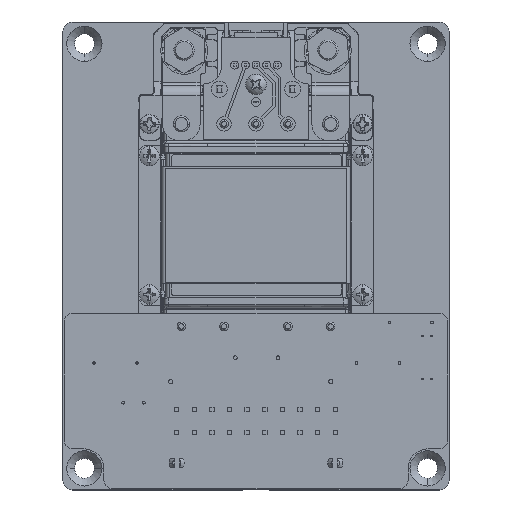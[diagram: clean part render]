
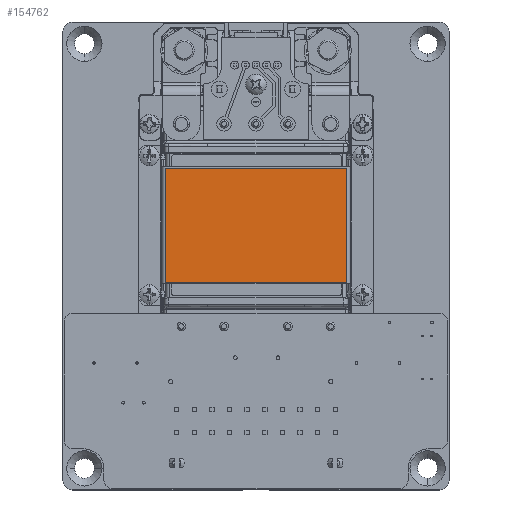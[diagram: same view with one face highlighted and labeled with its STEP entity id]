
A CAD part, top view. The second image highlights one B-rep face of the part: STEP entity #154762.
In plain terms, the highlighted planar face has unit normal (0, 0, 1).
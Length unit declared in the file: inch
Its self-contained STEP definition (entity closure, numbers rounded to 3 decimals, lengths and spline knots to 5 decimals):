
#24747 = CARTESIAN_POINT ( 'NONE',  ( 0.85261, -1.36906, 0.72147 ) ) ;
#24751 = CARTESIAN_POINT ( 'NONE',  ( -0.85249, -1.36906, 0.72147 ) ) ;
#24752 = CARTESIAN_POINT ( 'NONE',  ( 0.85261, -2.44227, 0.72147 ) ) ;
#24753 = CARTESIAN_POINT ( 'NONE',  ( -0.85249, -2.44227, 0.72147 ) ) ;
#31990 = CARTESIAN_POINT ( 'NONE',  ( -0.85124, -2.44227, 0.72147 ) ) ;
#31992 = DIRECTION ( 'NONE',  ( -1., 0., 0. ) ) ;
#32000 = CARTESIAN_POINT ( 'NONE',  ( -0.85249, -1.35401, 0.72147 ) ) ;
#32002 = DIRECTION ( 'NONE',  ( 0., 1., 0. ) ) ;
#32013 = CARTESIAN_POINT ( 'NONE',  ( 0.85261, -2.45731, 0.72147 ) ) ;
#32014 = DIRECTION ( 'NONE',  ( 0., -1., 0. ) ) ;
#32018 = CARTESIAN_POINT ( 'NONE',  ( 0.85137, -1.36906, 0.72147 ) ) ;
#32020 = DIRECTION ( 'NONE',  ( 1., 0., 0. ) ) ;
#50258 = EDGE_CURVE ( 'NONE', #55008, #55010, #56939, .T. ) ;
#50261 = EDGE_CURVE ( 'NONE', #55010, #55006, #56943, .T. ) ;
#50266 = EDGE_CURVE ( 'NONE', #54999, #55008, #56947, .T. ) ;
#50270 = EDGE_CURVE ( 'NONE', #55006, #54999, #56948, .T. ) ;
#54999 = VERTEX_POINT ( 'NONE', #24747 ) ;
#55006 = VERTEX_POINT ( 'NONE', #24751 ) ;
#55008 = VERTEX_POINT ( 'NONE', #24752 ) ;
#55010 = VERTEX_POINT ( 'NONE', #24753 ) ;
#56939 = LINE ( 'NONE', #31990, #164359 ) ;
#56943 = LINE ( 'NONE', #32000, #164367 ) ;
#56947 = LINE ( 'NONE', #32013, #164375 ) ;
#56948 = LINE ( 'NONE', #32018, #164381 ) ;
#106936 = ORIENTED_EDGE ( 'NONE', *, *, #50266, .F. ) ;
#106938 = ORIENTED_EDGE ( 'NONE', *, *, #50261, .F. ) ;
#106939 = ORIENTED_EDGE ( 'NONE', *, *, #50270, .F. ) ;
#106942 = ORIENTED_EDGE ( 'NONE', *, *, #50258, .F. ) ;
#132891 = FACE_OUTER_BOUND ( 'NONE', #157976, .T. ) ;
#137933 = PLANE ( 'NONE',  #139964 ) ;
#137934 = CARTESIAN_POINT ( 'NONE',  ( 0.78165, -2.40958, 0.72147 ) ) ;
#137935 = DIRECTION ( 'NONE',  ( 0., 0., 1. ) ) ;
#137936 = DIRECTION ( 'NONE',  ( 0., 1., 0. ) ) ;
#139964 = AXIS2_PLACEMENT_3D ( 'NONE', #137934, #137935, #137936 ) ;
#154762 = ADVANCED_FACE ( 'NONE', ( #132891 ), #137933, .T. ) ;
#157976 = EDGE_LOOP ( 'NONE', ( #106936, #106939, #106938, #106942 ) ) ;
#164359 = VECTOR ( 'NONE', #31992, 39.37008 ) ;
#164367 = VECTOR ( 'NONE', #32002, 39.37008 ) ;
#164375 = VECTOR ( 'NONE', #32014, 39.37008 ) ;
#164381 = VECTOR ( 'NONE', #32020, 39.37008 ) ;
